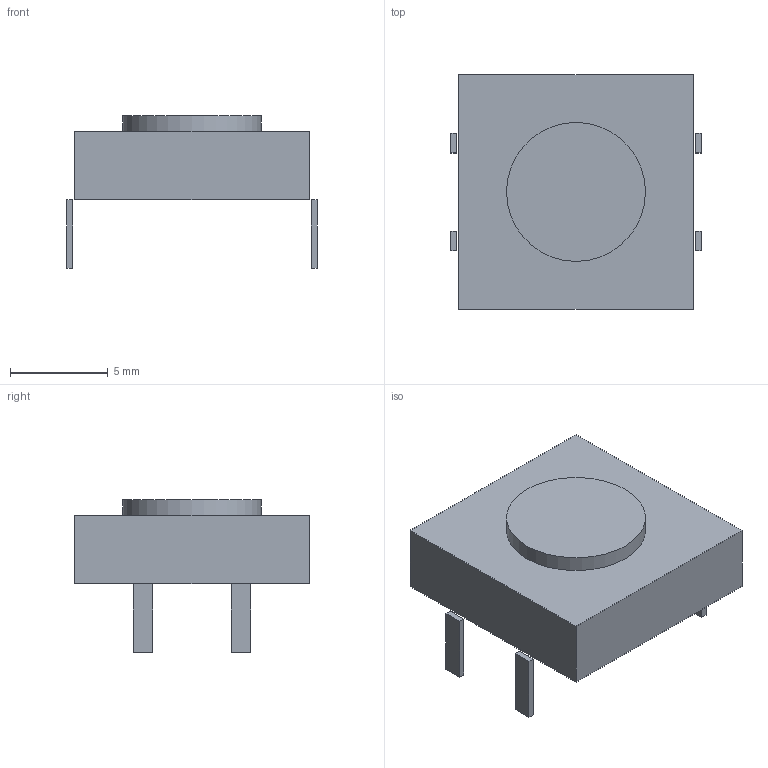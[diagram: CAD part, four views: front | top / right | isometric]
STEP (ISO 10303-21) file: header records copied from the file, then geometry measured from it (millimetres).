
FILE_DESCRIPTION(('Open CASCADE Model'),'2;1');
FILE_NAME('Open CASCADE Shape Model','2026-09-15T14:24:32',('Author'),( 'Open CASCADE'),'Open CASCADE STEP processor 7.7','Open CASCADE 7.7' ,'Unknown');
FILE_SCHEMA(('AUTOMOTIVE_DESIGN { 1 0 10303 214 1 1 1 1 }'));
Length unit declared in the file: millimetre
Products named in the file (7): Open CASCADE STEP translator 7.7 62; Open CASCADE STEP translator 7.7 62.1; Open CASCADE STEP translator 7.7 62.2; Open CASCADE STEP translator 7.7 62.3; Open CASCADE STEP translator 7.7 62.4; Open CASCADE STEP translator 7.7 62.5; Open CASCADE STEP translator 7.7 62.6
Assembly tree (6 placements, depth 2):
  Open CASCADE STEP translator 7.7 62
    Open CASCADE STEP translator 7.7 62.1
    Open CASCADE STEP translator 7.7 62.2
    Open CASCADE STEP translator 7.7 62.3
    Open CASCADE STEP translator 7.7 62.4
    Open CASCADE STEP translator 7.7 62.5
    Open CASCADE STEP translator 7.7 62.6
Bounding box: 12.8 x 12 x 7.8 mm (x, y, z)
Volume: 539.9 mm3; surface area: 591.8 mm2
Topology: 6 solids, 6 shells, 33 faces, 63 edges, 42 vertices
Faces by surface type: plane 32, cylinder 1
Full cylindrical faces by diameter (mm): 7.1 x1
Entity records: 1746 total; most frequent: CARTESIAN_POINT 271, DIRECTION 271, LINE 185, VECTOR 185, ORIENTED_EDGE 126, PCURVE 126, DEFINITIONAL_REPRESENTATION 126, EDGE_CURVE 63
